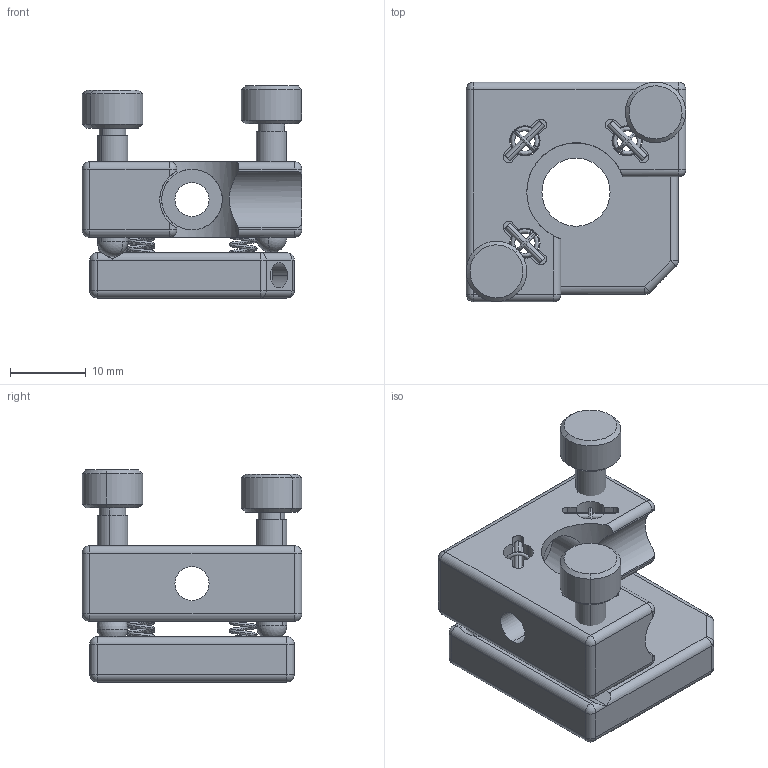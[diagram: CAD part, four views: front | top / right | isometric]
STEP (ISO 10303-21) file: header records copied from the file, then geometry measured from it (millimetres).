
FILE_DESCRIPTION (( 'STEP AP203' ), '1' );
FILE_NAME ('7MM0710謗峎覃淕噩殤.STEP', '2019-10-17T09:03:42', ( '' ), ( '' ), 'SwSTEP 2.0', 'SolidWorks 2014', '' );
FILE_SCHEMA (( 'CONFIG_CONTROL_DESIGN' ));
Length unit declared in the file: millimetre
Products named in the file (1): 7MM0710謗峎覃淕噩殤
Bounding box: 29 x 29 x 28 mm (x, y, z)
Surface area: 6800 mm2 (no closed solid volume)
Topology: 0 solids, 26 shells, 255 faces, 684 edges, 416 vertices
Faces by surface type: cylinder 116, plane 73, sphere 26, cone 16, bspline 12, torus 12
Entity records: 15624 total; most frequent: CARTESIAN_POINT 9263, DIRECTION 1429, ORIENTED_EDGE 1201, EDGE_CURVE 651, AXIS2_PLACEMENT_3D 573, VERTEX_POINT 413, CIRCLE 329, EDGE_LOOP 285
